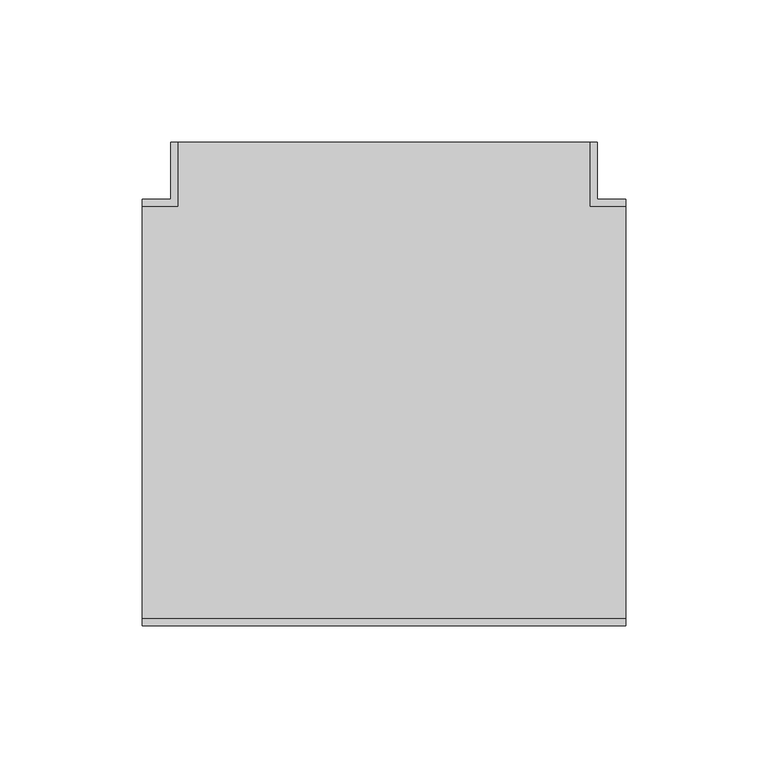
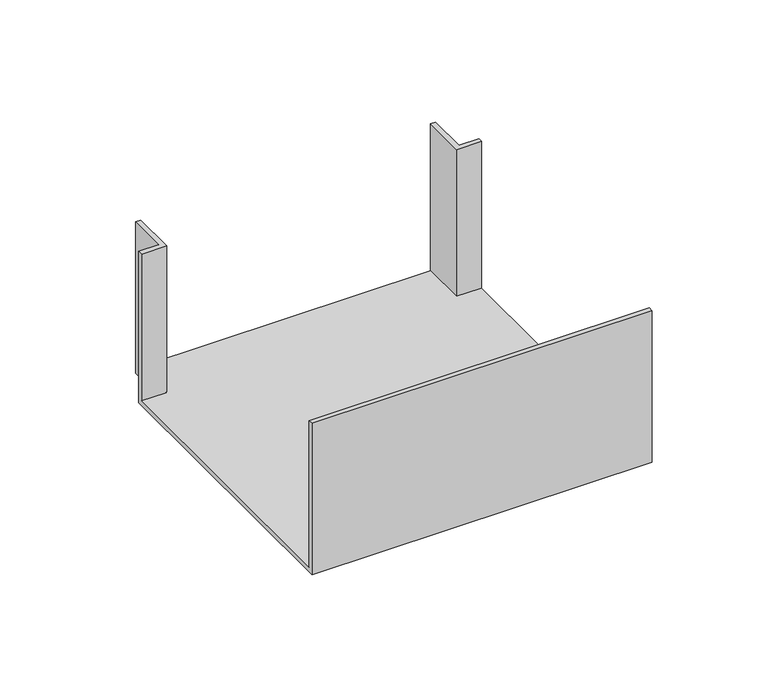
"""IFC4 building model written with IfcOpenShell, lengths in millimetres: cable carrier fitting geometry, КНС_ТройникNTAN_ILC_DKC : Тройник/отвод."""

from ifc_helpers import new_model, si_unit, origin, place, context, project, spatial, faceted_brep, source, transform, mapped, element, save


def cable_carrier_fitting_e31a74c1(model_context):
    return source(origin(), model_context, "Body", "Brep", [
        faceted_brep([(85.0, -72.5, -37.5), (85.0, 72.5, -37.5), (72.5, 72.5, -37.5), (72.5, 95.0, -37.5), (-72.5, 95.0, -37.5), (-72.5, 72.5, -37.5), (-85.0, 72.5, -37.5), (-85.0, -72.5, -37.5), (85.0, -75.0, -40.0), (-85.0, -75.0, -40.0), (-85.0, 75.0, -40.0), (-75.0, 75.0, -40.0), (-75.0, 95.0, -40.0), (75.0, 95.0, -40.0), (75.0, 75.0, -40.0), (85.0, 75.0, -40.0), (85.0, 75.0, 40.0), (85.0, 72.5, 40.0), (85.0, -72.5, 40.0), (85.0, -75.0, 40.0), (75.0, 75.0, 40.0), (75.0, 95.0, 40.0), (-75.0, 95.0, 40.0), (-72.5, 95.0, 40.0), (72.5, 95.0, 40.0), (-75.0, 75.0, 40.0), (-85.0, 75.0, 40.0), (-85.0, -75.0, 40.0), (-85.0, -72.5, 40.0), (-85.0, 72.5, 40.0), (72.5, 72.5, 40.0), (-72.5, 72.5, 40.0)], [[[0, 1, 2, 3, 4, 5, 6, 7]], [[8, 9, 10, 11, 12, 13, 14, 15]], [[8, 15, 16, 17, 1, 0, 18, 19]], [[16, 15, 14, 20]], [[20, 14, 13, 21]], [[21, 13, 12, 22, 23, 4, 3, 24]], [[22, 12, 11, 25]], [[25, 11, 10, 26]], [[26, 10, 9, 27, 28, 7, 6, 29]], [[27, 9, 8, 19]], [[20, 21, 24, 30, 17, 16]], [[25, 26, 29, 31, 23, 22]], [[27, 19, 18, 28]], [[31, 29, 6, 5]], [[23, 31, 5, 4]], [[30, 24, 3, 2]], [[17, 30, 2, 1]], [[28, 18, 0, 7]]]),
    ])


if __name__ == "__main__":
    model = new_model("IFC4")
    model_context = context("Model", 3, world=origin())
    ifc_project = project(units=[si_unit("LENGTHUNIT", "METRE", prefix="MILLI")], contexts=[model_context])
    site = spatial("IfcSite", under=ifc_project)
    building = spatial("IfcBuilding", under=site)
    placement = place(None, origin())
    cable_carrier_fitting_shape = cable_carrier_fitting_e31a74c1(model_context)
    element("IfcCableCarrierFitting", 1, ObjectType="КНС_ТройникNTAN_ILC_DKC : Тройник/отвод", at=placement, inside=building, context=model_context, shape_type="MappedRepresentation", body=[
        mapped(cable_carrier_fitting_shape, transform((0.0, 0.0, 0.0), x_axis=(1.0, 0.0, 0.0), y_axis=(0.0, 1.0, 0.0), z_axis=(0.0, 0.0, 1.0))),
    ])
    save(model, "model.ifc")
